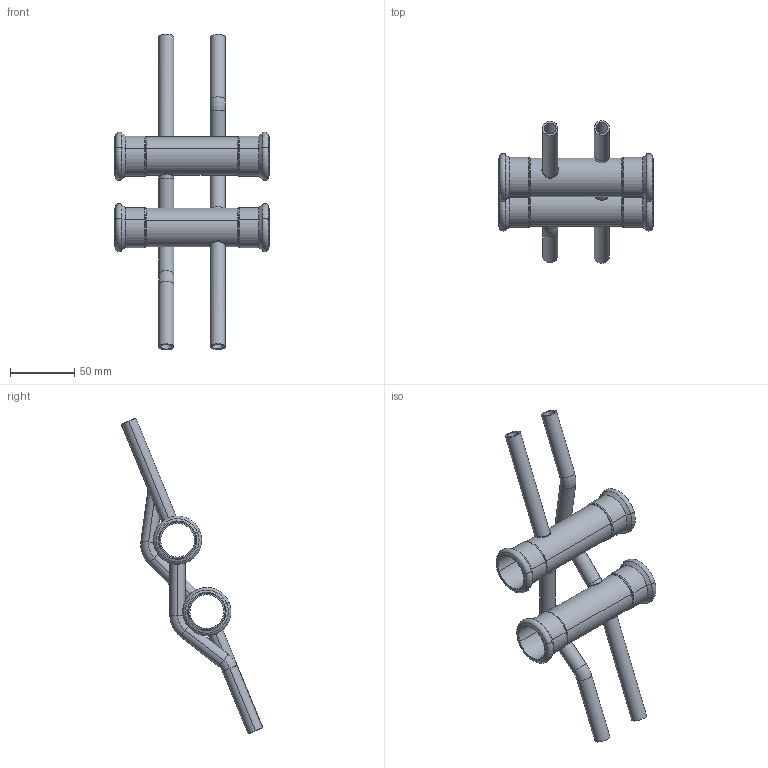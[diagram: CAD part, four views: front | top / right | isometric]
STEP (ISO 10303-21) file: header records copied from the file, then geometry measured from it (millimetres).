
FILE_DESCRIPTION(('CoCreate Modeling STEP Export'),'2;1');
FILE_NAME('C1436 28x12.stp','2015-08-12T13:11:21',(''),(''),'CoCreate Modeling STEP processor for AP214 (Solid Model)','CoCreate Modeling 17.00A 17-Jun-2010 (C) Parametric Technology GmbH','');
FILE_SCHEMA(('AUTOMOTIVE_DESIGN { 1 0 10303 214 1 1 1 1 }'));
Length unit declared in the file: millimetre
Products named in the file (5): 620869.7.1.2; 620859.8.1.1.1; 620869.7.1.1.1; 620859.8.1.1.1.1; C1436-28x12
Assembly tree (4 placements, depth 2):
  C1436-28x12
    620859.8.1.1.1.1
    620869.7.1.1.1
    620859.8.1.1.1
    620869.7.1.2
Bounding box: 120.02 x 110.11 x 245.25 mm (x, y, z)
Volume: 63635.6 mm3; surface area: 77955.6 mm2
Topology: 4 solids, 4 shells, 156 faces, 336 edges, 200 vertices
Faces by surface type: cylinder 72, torus 32, cone 24, plane 20, bspline 8
Entity records: 10857 total; most frequent: CARTESIAN_POINT 7843, ORIENTED_EDGE 672, DIRECTION 514, EDGE_CURVE 336, AXIS2_PLACEMENT_3D 209, VERTEX_POINT 200, EDGE_LOOP 184, FACE_OUTER_BOUND 156
